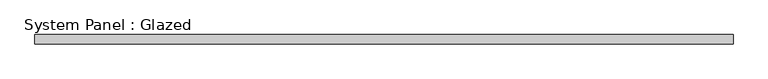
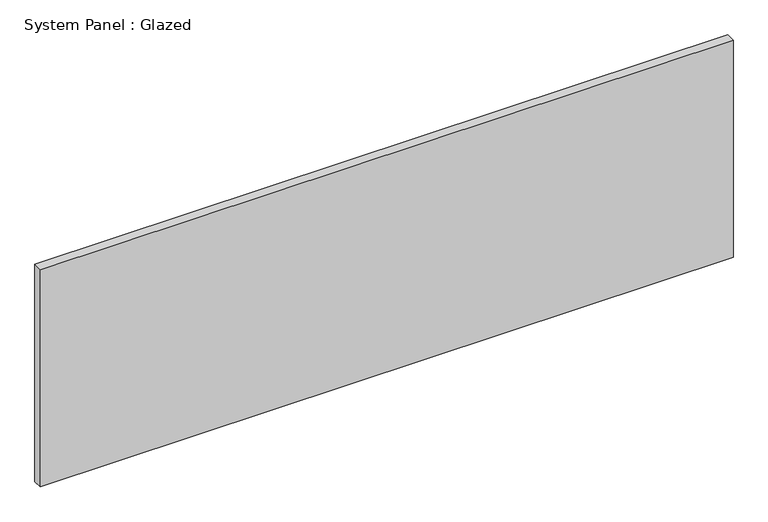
"""IFC4 building model written with IfcOpenShell, lengths in millimetres: plate geometry, System Panel : Glazed."""

from ifc_helpers import new_model, si_unit, origin, origin_with_axes, place, context, project, spatial, polyline, outline, extrude, source, transform, mapped, element, save


def system_panel_glazed_1977cfcc(model_context):
    return source(origin(), model_context, "Body", "SweptSolid", [
        extrude(outline(polyline([(942.5, -49.5), (-942.5, -49.5), (-942.5, -24.5), (942.5, -24.5), (942.5, -49.5)])), origin_with_axes(), (0.0, 0.0, 1.0), 625.0),
    ])


if __name__ == "__main__":
    model = new_model("IFC4")
    model_context = context("Model", 3, world=origin())
    ifc_project = project(units=[si_unit("LENGTHUNIT", "METRE", prefix="MILLI")], contexts=[model_context])
    site = spatial("IfcSite", under=ifc_project)
    building = spatial("IfcBuilding", under=site)
    placement = place(None, origin())
    system_panel_glazed_shape = system_panel_glazed_1977cfcc(model_context)
    element("IfcPlate", 1, ObjectType="System Panel : Glazed", at=placement, inside=building, context=model_context, shape_type="MappedRepresentation", body=[
        mapped(system_panel_glazed_shape, transform((0.0, 0.0, 0.0), x_axis=(1.0, 0.0, 0.0), y_axis=(0.0, 1.0, 0.0), z_axis=(0.0, 0.0, 1.0))),
    ])
    save(model, "model.ifc")
